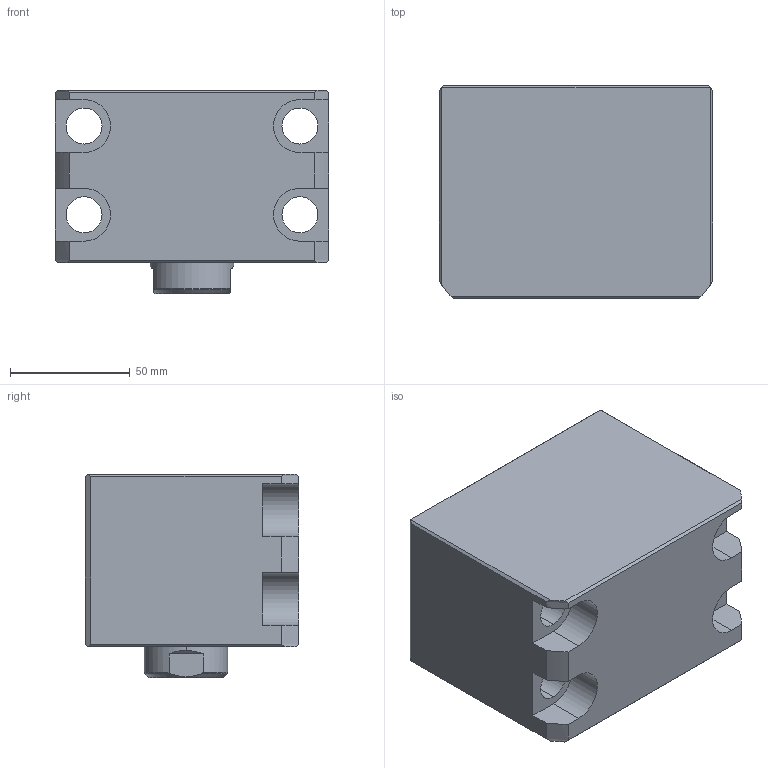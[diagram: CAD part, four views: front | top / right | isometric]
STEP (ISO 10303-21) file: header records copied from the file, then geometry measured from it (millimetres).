
FILE_DESCRIPTION (( 'STEP AP214' ), '1' );
FILE_NAME ('chtb-lam63x5n_asm.STEP', '2018-05-22T02:52:21', ( 'Windows' ), ( 'Microsoft' ), 'SwSTEP 2.0', 'SolidWorks 2015', '' );
FILE_SCHEMA (( 'AUTOMOTIVE_DESIGN' ));
Length unit declared in the file: millimetre
Products named in the file (4): CHTB-LAM63X5NBT; CHTB63X5NHSG; CHTB-63QG; chtb-lam63x5n_asm
Assembly tree (3 placements, depth 2):
  chtb-lam63x5n_asm
    CHTB-63QG
    CHTB63X5NHSG
    CHTB-LAM63X5NBT
Bounding box: 114 x 89 x 85 mm (x, y, z)
Volume: 640487.2 mm3; surface area: 113130 mm2
Topology: 3 solids, 3 shells, 170 faces, 506 edges, 344 vertices
Faces by surface type: cylinder 94, plane 47, bspline 13, cone 8, torus 8
Entity records: 18603 total; most frequent: CARTESIAN_POINT 14283, ORIENTED_EDGE 1000, DIRECTION 717, EDGE_CURVE 500, VERTEX_POINT 344, AXIS2_PLACEMENT_3D 267, EDGE_LOOP 192, VECTOR 183
